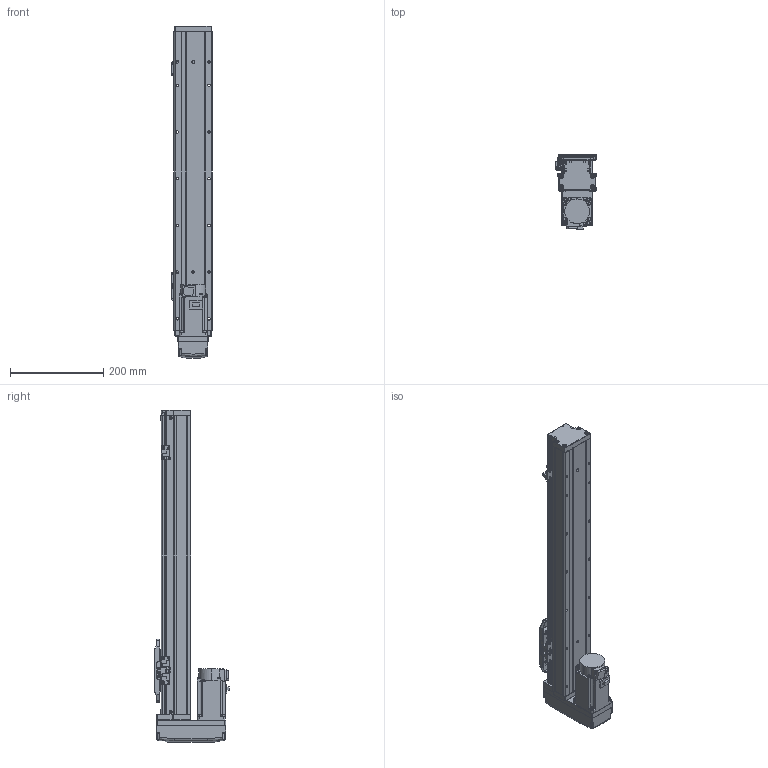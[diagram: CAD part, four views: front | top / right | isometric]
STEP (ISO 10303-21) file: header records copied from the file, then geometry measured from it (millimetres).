
FILE_DESCRIPTION (( 'STEP AP203' ), '1' );
FILE_NAME ('GTH8-450-BM-M20-C4.step', '2022-09-23T01:05:16', ( '微软用户' ), ( '微软中国' ), 'SwSTEP 2.0', 'SolidWorks 2020', '' );
FILE_SCHEMA (( 'CONFIG_CONTROL_DESIGN' ));
Length unit declared in the file: millimetre
Products named in the file (18): GTH80-001_450; GBT 70.1-M3℅6; hg-kn43j_-s100_; GTH80-003; GBT 70.1-M4×16; CTHA86-015-1_CTHA86-015-2; GTH80-004; GTH80-028; CTHA86-033_M40B; GTH80-006; GTH50-024; GTH8-450-BM-M20-C4; GTH80-013; GTH50-023; GBT 70.3-M3℅6; GBT96.1-2002 3×0.8; GTH80-022; BTH-M3X5X6
Assembly tree (57 placements, depth 2):
  GTH8-450-BM-M20-C4
    GTH80-001_450
    GTH80-003
    GTH80-004
    GTH80-006
    GTH80-013
    GBT 70.3-M3℅6  x4
    GTH80-022
    GBT 70.1-M3℅6  x14
    GBT 70.1-M4×16  x8
    GTH80-028  x2
    GTH50-024  x3
    GTH50-023  x3
    GBT96.1-2002 3×0.8  x6
    BTH-M3X5X6  x8
    hg-kn43j_-s100_
    CTHA86-015-1_CTHA86-015-2
    CTHA86-033_M40B
Bounding box: 86.9 x 160.3 x 711 mm (x, y, z)
Volume: 3761191.3 mm3; surface area: 413409.2 mm2
Topology: 59 solids, 59 shells, 2236 faces, 5163 edges, 3163 vertices
Faces by surface type: plane 1187, cylinder 607, cone 260, torus 166, bspline 8, sphere 8
Entity records: 40774 total; most frequent: CARTESIAN_POINT 7169, DIRECTION 6621, ORIENTED_EDGE 6144, EDGE_CURVE 3072, AXIS2_PLACEMENT_3D 2313, LINE 1995, VECTOR 1995, VERTEX_POINT 1938
